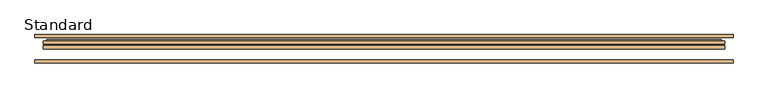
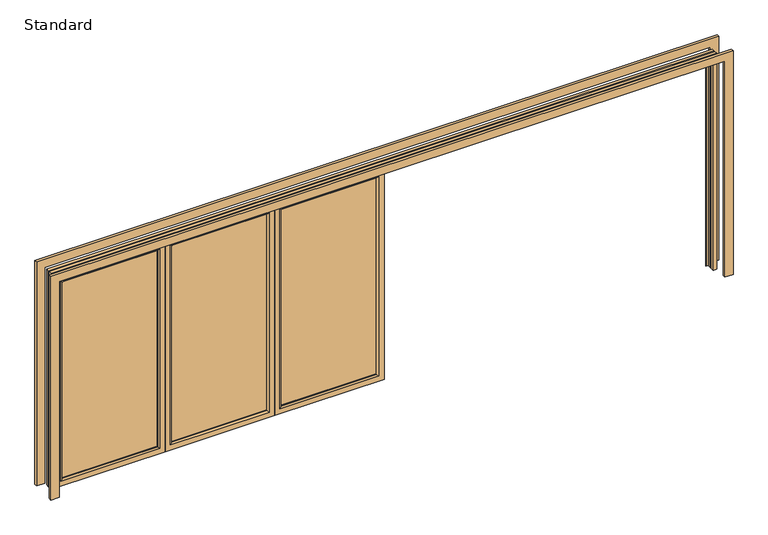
"""IFC4 building model written with IfcOpenShell, lengths in millimetres: door geometry, SMARTS_Visofold1000 : Standard."""

from ifc_helpers import new_model, si_unit, frame, origin, place, context, project, spatial, polyline, ellipse_curve, outline, extrude, faceted_brep, source, transform, mapped, element, save
from ifc_brep_helpers import plane_surface, cylinder_surface, advanced_brep


def standard_046189a8(model_context):
    return source(origin(), model_context, "Body", "SolidModel", [
        advanced_brep(
        [(-1912.8333333, 13.3, 60.5), (-1912.8333333, 17.4, 60.5), (-1912.8333333, 17.4, 1939.5), (-1912.8333333, 13.3, 1939.5), (-1973.3333333, 17.4, 0.0), (-1973.3333333, 0.0, 0.0), (-1973.3333333, 0.0, 2000.0), (-1973.3333333, 17.4, 2000.0), (-1047.1666667, 17.4, 1939.5), (-1047.1666667, 13.3, 1939.5), (-986.6666667, 0.0, 2000.0), (-986.6666667, 17.4, 2000.0), (-1047.1666667, 17.4, 60.5), (-1047.1666667, 13.3, 60.5), (-986.6666667, 0.0, 0.0), (-986.6666667, 17.4, 0.0), (-1926.1333333, 0.0, 1952.8), (-1033.8666667, 0.0, 1952.8), (-1033.8666667, 0.0, 47.2), (-1926.1333333, 0.0, 47.2), (-1955.4641853, 34.8, 17.8691481), (-1955.4641853, 17.4, 17.8691481), (-1955.4641853, 17.4, 1982.1308519), (-1955.4641853, 34.8, 1982.1308519), (-1004.5358147, 17.4, 1982.1308519), (-1004.5358147, 34.8, 1982.1308519), (-1004.5358147, 17.4, 17.8691481), (-1004.5358147, 34.8, 17.8691481), (-1928.3333333, 17.4, 45.0), (-1928.3333333, 34.8, 45.0), (-1928.3333333, 34.8, 1955.0), (-1928.3333333, 17.4, 1955.0), (-1031.6666667, 34.8, 1955.0), (-1031.6666667, 17.4, 1955.0), (-1031.6666667, 34.8, 45.0), (-1031.6666667, 17.4, 45.0)],
        [
            (0, 1),
            (1, 2),
            (2, 3),
            (3, 0),
            (4, 5),
            (5, 6),
            (6, 7),
            (7, 4),
            (2, 8),
            (8, 9),
            (9, 3),
            (6, 10),
            (10, 11),
            (11, 7),
            (8, 12),
            (12, 13),
            (13, 9),
            (10, 14),
            (14, 15),
            (15, 11),
            (12, 1),
            (0, 13),
            (5, 14),
            (16, 17),
            (17, 18),
            (18, 19),
            (19, 16),
            (4, 15),
            (19, 0, ellipse_curve(frame((-1926.1333333, 13.3, 47.2), z_axis=(-0.70710678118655, 0.0, 0.707106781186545), x_axis=(-0.707106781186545, 0.0, -0.7071067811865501)), 18.8090404, 13.3)),
            (3, 16, ellipse_curve(frame((-1926.1333333, 13.3, 1952.8), z_axis=(-0.7071067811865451, 0.0, -0.7071067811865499), x_axis=(0.70710678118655, 0.0, -0.7071067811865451)), 18.8090404, 13.3)),
            (9, 17, ellipse_curve(frame((-1033.8666667, 13.3, 1952.8), z_axis=(-0.70710678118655, 0.0, 0.707106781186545), x_axis=(-0.707106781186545, 0.0, -0.7071067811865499)), 18.8090404, 13.3)),
            (13, 18, ellipse_curve(frame((-1033.8666667, 13.3, 47.2), z_axis=(0.7071067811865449, 0.0, 0.70710678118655), x_axis=(-0.7071067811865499, 0.0, 0.707106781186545)), 18.8090404, 13.3)),
            (20, 21),
            (21, 22),
            (22, 23),
            (23, 20),
            (22, 24),
            (24, 25),
            (25, 23),
            (24, 26),
            (26, 27),
            (27, 25),
            (21, 26),
            (20, 27),
            (28, 29),
            (29, 30),
            (30, 31),
            (31, 28),
            (30, 32),
            (32, 33),
            (33, 31),
            (32, 34),
            (34, 35),
            (35, 33),
            (34, 29),
            (28, 35),
        ],
        [
            plane_surface(frame((-1912.8333333, 17.4, 60.5), z_axis=(1.0, 0.0, 0.0), x_axis=(0.0, 0.0, 1.0))),
            plane_surface(frame((-1973.3333333, 0.0, 0.0), z_axis=(-1.0, 0.0, 0.0), x_axis=(0.0, 0.0, 1.0))),
            plane_surface(frame((-1912.8333333, 17.4, 1939.5), z_axis=(0.0, 0.0, -1.0), x_axis=(1.0, 0.0, 0.0))),
            plane_surface(frame((-1973.3333333, 0.0, 2000.0), z_axis=(0.0, 0.0, 1.0), x_axis=(1.0, 0.0, 0.0))),
            plane_surface(frame((-1047.1666667, 17.4, 1939.5), z_axis=(-1.0, 0.0, 0.0), x_axis=(0.0, 0.0, -1.0))),
            plane_surface(frame((-986.6666667, 0.0, 2000.0), z_axis=(1.0, 0.0, 0.0), x_axis=(0.0, 0.0, -1.0))),
            plane_surface(frame((-1047.1666667, 17.4, 60.5), z_axis=(0.0, 0.0, 1.0), x_axis=(-1.0, 0.0, 0.0))),
            plane_surface(frame((-1033.8666667, 0.0, 47.2), z_axis=(0.0, -1.0, 0.0), x_axis=(-1.0, 0.0, 0.0))),
            plane_surface(frame((-986.6666667, 0.0, 0.0), z_axis=(0.0, 0.0, -1.0), x_axis=(-1.0, 0.0, 0.0))),
            cylinder_surface(frame((-1926.1333333, 13.3, 0.0), z_axis=(0.0, 0.0, -1.0), x_axis=(0.0, 1.0, 0.0)), 13.3),
            cylinder_surface(frame((-1973.3333333, 13.3, 1952.8), z_axis=(-1.0, 0.0, 0.0), x_axis=(0.0, 1.0, 0.0)), 13.3),
            cylinder_surface(frame((-1033.8666667, 13.3, 2000.0), z_axis=(0.0, 0.0, 1.0), x_axis=(0.0, 1.0, 0.0)), 13.3),
            cylinder_surface(frame((-986.6666667, 13.3, 47.2), z_axis=(1.0, 0.0, 0.0), x_axis=(0.0, 1.0, 0.0)), 13.3),
            plane_surface(frame((-1955.4641853, 17.4, 17.8691481), z_axis=(-1.0, 0.0, 0.0), x_axis=(0.0, 0.0, 1.0))),
            plane_surface(frame((-1955.4641853, 17.4, 1982.1308519), z_axis=(0.0, 0.0, 1.0), x_axis=(1.0, 0.0, 0.0))),
            plane_surface(frame((-1004.5358147, 17.4, 1982.1308519), z_axis=(1.0, 0.0, 0.0), x_axis=(0.0, 0.0, -1.0))),
            plane_surface(frame((-986.6666667, 17.4, 0.0), z_axis=(0.0, 1.0, 0.0), x_axis=(-1.0, 0.0, 0.0))),
            plane_surface(frame((-1004.5358147, 17.4, 17.8691481), z_axis=(0.0, 0.0, -1.0), x_axis=(-1.0, 0.0, 0.0))),
            plane_surface(frame((-1928.3333333, 34.8, 45.0), z_axis=(1.0, 0.0, 0.0), x_axis=(0.0, 0.0, 1.0))),
            plane_surface(frame((-1928.3333333, 34.8, 1955.0), z_axis=(0.0, 0.0, -1.0), x_axis=(1.0, 0.0, 0.0))),
            plane_surface(frame((-1031.6666667, 34.8, 1955.0), z_axis=(-1.0, 0.0, 0.0), x_axis=(0.0, 0.0, -1.0))),
            plane_surface(frame((-1031.6666667, 34.8, 45.0), z_axis=(0.0, 0.0, 1.0), x_axis=(-1.0, 0.0, 0.0))),
            plane_surface(frame((-1031.6666667, 17.4, 45.0), z_axis=(0.0, 1.0, 0.0), x_axis=(-1.0, 0.0, 0.0))),
            plane_surface(frame((-1004.5358147, 34.8, 17.8691481), z_axis=(0.0, 1.0, 0.0), x_axis=(-1.0, 0.0, 0.0))),
        ],
        [
            (0, [[1, 2, 3, 4]]),
            (1, [[5, 6, 7, 8]]),
            (2, [[-3, 9, 10, 11]]),
            (3, [[-7, 12, 13, 14]]),
            (4, [[-10, 15, 16, 17]]),
            (5, [[-13, 18, 19, 20]]),
            (6, [[-16, 21, -1, 22]]),
            (7, [[23, -18, -12, -6], [24, 25, 26, 27]]),
            (8, [[-19, -23, -5, 28]]),
            (9, [[29, -4, 30, -27]]),
            (10, [[-30, -11, 31, -24]]),
            (11, [[-31, -17, 32, -25]]),
            (12, [[-32, -22, -29, -26]]),
            (13, [[33, 34, 35, 36]]),
            (14, [[-35, 37, 38, 39]]),
            (15, [[-38, 40, 41, 42]]),
            (16, [[-14, -20, -28, -8], [43, -40, -37, -34]]),
            (17, [[-41, -43, -33, 44]]),
            (18, [[45, 46, 47, 48]]),
            (19, [[-47, 49, 50, 51]]),
            (20, [[-50, 52, 53, 54]]),
            (21, [[-53, 55, -45, 56]]),
            (22, [[-51, -54, -56, -48], [-21, -15, -9, -2]]),
            (23, [[-39, -42, -44, -36], [-55, -52, -49, -46]]),
        ],
    ),
        extrude(outline(polyline([(-1912.8333333, 50.1484783), (-1047.1666667, 50.1484783), (-1047.1666667, 21.4), (-1912.8333333, 21.4), (-1912.8333333, 50.1484783)])), frame((0.0, 0.0, 60.5), z_axis=(0.0, 0.0, 1.0), x_axis=(1.0, 0.0, 0.0)), (0.0, 0.0, 1.0), 1879.0),
        extrude(outline(polyline([(45.0, -45.0), (1955.0, -45.0), (1955.0, -941.6666667), (45.0, -941.6666667), (45.0, -45.0)]), holes=[polyline([(1939.5, -60.5), (60.5, -60.5), (60.5, -926.1666667), (1939.5, -926.1666667), (1939.5, -60.5)])]), frame((0.0, 17.4, 0.0), z_axis=(0.0, 1.0, 0.0), x_axis=(0.0, 0.0, 1.0)), (0.0, 0.0, 1.0), 35.0),
        faceted_brep([(0.0, 74.4, 0.0), (0.0, 74.4, 2000.0), (0.0, 52.4, 2000.0), (0.0, 52.4, 0.0), (-60.5, 52.4, 60.5), (-60.5, 52.4, 1939.5), (-60.5, 74.4, 1939.5), (-60.5, 74.4, 60.5), (-986.6666667, 74.4, 2000.0), (-986.6666667, 52.4, 2000.0), (-926.1666667, 52.4, 1939.5), (-926.1666667, 74.4, 1939.5), (-986.6666667, 74.4, 0.0), (-986.6666667, 52.4, 0.0), (-926.1666667, 52.4, 60.5), (-926.1666667, 74.4, 60.5), (-17.8691481, 34.8, 17.8691481), (-17.8691481, 34.8, 1982.1308519), (-968.7975186, 34.8, 1982.1308519), (-968.7975186, 34.8, 17.8691481), (-45.0, 34.8, 1955.0), (-45.0, 34.8, 45.0), (-941.6666667, 34.8, 45.0), (-941.6666667, 34.8, 1955.0), (-17.8691481, 52.4, 17.8691481), (-17.8691481, 52.4, 1982.1308519), (-45.0, 52.4, 1955.0), (-45.0, 52.4, 45.0), (-968.7975186, 52.4, 1982.1308519), (-941.6666667, 52.4, 1955.0), (-968.7975186, 52.4, 17.8691481), (-941.6666667, 52.4, 45.0)], [[[0, 1, 2, 3]], [[4, 5, 6, 7]], [[1, 8, 9, 2]], [[5, 10, 11, 6]], [[8, 12, 13, 9]], [[10, 14, 15, 11]], [[12, 0, 3, 13]], [[1, 0, 12, 8], [7, 6, 11, 15]], [[14, 4, 7, 15]], [[16, 17, 18, 19], [20, 21, 22, 23]], [[24, 25, 17, 16]], [[21, 20, 26, 27]], [[25, 28, 18, 17]], [[20, 23, 29, 26]], [[28, 30, 19, 18]], [[23, 22, 31, 29]], [[30, 24, 16, 19]], [[3, 2, 9, 13], [25, 24, 30, 28]], [[27, 26, 29, 31], [5, 4, 14, 10]], [[22, 21, 27, 31]]]),
        advanced_brep(
        [(-60.5, 13.3, 60.5), (-60.5, 13.3, 1939.5), (-60.5, 17.4, 1939.5), (-60.5, 17.4, 60.5), (0.0, 17.4, 0.0), (0.0, 17.4, 2000.0), (0.0, 0.0, 2000.0), (0.0, 0.0, 0.0), (-926.1666667, 13.3, 1939.5), (-926.1666667, 17.4, 1939.5), (-986.6666667, 17.4, 2000.0), (-986.6666667, 0.0, 2000.0), (-926.1666667, 13.3, 60.5), (-926.1666667, 17.4, 60.5), (-986.6666667, 17.4, 0.0), (-986.6666667, 0.0, 0.0), (-47.2, 0.0, 1952.8), (-47.2, 0.0, 47.2), (-939.4666667, 0.0, 47.2), (-939.4666667, 0.0, 1952.8), (-17.8691481, 34.8, 17.8691481), (-17.8691481, 34.8, 1982.1308519), (-17.8691481, 17.4, 1982.1308519), (-17.8691481, 17.4, 17.8691481), (-968.7975186, 34.8, 1982.1308519), (-968.7975186, 17.4, 1982.1308519), (-968.7975186, 34.8, 17.8691481), (-968.7975186, 17.4, 17.8691481), (-45.0, 17.4, 45.0), (-45.0, 17.4, 1955.0), (-45.0, 34.8, 1955.0), (-45.0, 34.8, 45.0), (-941.6666667, 17.4, 1955.0), (-941.6666667, 34.8, 1955.0), (-941.6666667, 17.4, 45.0), (-941.6666667, 34.8, 45.0)],
        [
            (0, 1),
            (1, 2),
            (2, 3),
            (3, 0),
            (4, 5),
            (5, 6),
            (6, 7),
            (7, 4),
            (1, 8),
            (8, 9),
            (9, 2),
            (5, 10),
            (10, 11),
            (11, 6),
            (8, 12),
            (12, 13),
            (13, 9),
            (10, 14),
            (14, 15),
            (15, 11),
            (12, 0),
            (3, 13),
            (15, 7),
            (16, 17),
            (17, 18),
            (18, 19),
            (19, 16),
            (14, 4),
            (16, 1, ellipse_curve(frame((-47.2, 13.3, 1952.8), z_axis=(0.7071067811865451, 0.0, -0.7071067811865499), x_axis=(-0.70710678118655, 0.0, -0.7071067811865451)), 18.8090404, 13.3)),
            (0, 17, ellipse_curve(frame((-47.2, 13.3, 47.2), z_axis=(0.70710678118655, 0.0, 0.707106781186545), x_axis=(0.707106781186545, 0.0, -0.7071067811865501)), 18.8090404, 13.3)),
            (19, 8, ellipse_curve(frame((-939.4666667, 13.3, 1952.8), z_axis=(0.70710678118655, 0.0, 0.707106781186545), x_axis=(0.707106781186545, 0.0, -0.7071067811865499)), 18.8090404, 13.3)),
            (18, 12, ellipse_curve(frame((-939.4666667, 13.3, 47.2), z_axis=(-0.7071067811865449, 0.0, 0.70710678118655), x_axis=(0.7071067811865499, 0.0, 0.707106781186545)), 18.8090404, 13.3)),
            (20, 21),
            (21, 22),
            (22, 23),
            (23, 20),
            (21, 24),
            (24, 25),
            (25, 22),
            (24, 26),
            (26, 27),
            (27, 25),
            (27, 23),
            (26, 20),
            (28, 29),
            (29, 30),
            (30, 31),
            (31, 28),
            (29, 32),
            (32, 33),
            (33, 30),
            (32, 34),
            (34, 35),
            (35, 33),
            (34, 28),
            (31, 35),
        ],
        [
            plane_surface(frame((-60.5, 17.4, 60.5), z_axis=(-1.0, 0.0, 0.0), x_axis=(0.0, 0.0, 1.0))),
            plane_surface(frame((0.0, 0.0, 0.0), z_axis=(1.0, 0.0, 0.0), x_axis=(0.0, 0.0, 1.0))),
            plane_surface(frame((-60.5, 17.4, 1939.5), z_axis=(0.0, 0.0, -1.0), x_axis=(-1.0, 0.0, 0.0))),
            plane_surface(frame((0.0, 0.0, 2000.0), z_axis=(0.0, 0.0, 1.0), x_axis=(-1.0, 0.0, 0.0))),
            plane_surface(frame((-926.1666667, 17.4, 1939.5), z_axis=(1.0, 0.0, 0.0), x_axis=(0.0, 0.0, -1.0))),
            plane_surface(frame((-986.6666667, 0.0, 2000.0), z_axis=(-1.0, 0.0, 0.0), x_axis=(0.0, 0.0, -1.0))),
            plane_surface(frame((-926.1666667, 17.4, 60.5), z_axis=(0.0, 0.0, 1.0), x_axis=(1.0, 0.0, 0.0))),
            plane_surface(frame((-939.4666667, 0.0, 47.2), z_axis=(0.0, -1.0, 0.0), x_axis=(1.0, 0.0, 0.0))),
            plane_surface(frame((-986.6666667, 0.0, 0.0), z_axis=(0.0, 0.0, -1.0), x_axis=(1.0, 0.0, 0.0))),
            cylinder_surface(frame((-47.2, 13.3, 0.0), z_axis=(0.0, 0.0, -1.0), x_axis=(0.0, 1.0, 0.0)), 13.3),
            cylinder_surface(frame((0.0, 13.3, 1952.8), z_axis=(1.0, 0.0, 0.0), x_axis=(0.0, 1.0, 0.0)), 13.3),
            cylinder_surface(frame((-939.4666667, 13.3, 2000.0), z_axis=(0.0, 0.0, 1.0), x_axis=(0.0, 1.0, 0.0)), 13.3),
            cylinder_surface(frame((-986.6666667, 13.3, 47.2), z_axis=(-1.0, 0.0, 0.0), x_axis=(0.0, 1.0, 0.0)), 13.3),
            plane_surface(frame((-17.8691481, 17.4, 17.8691481), z_axis=(1.0, 0.0, 0.0), x_axis=(0.0, 0.0, 1.0))),
            plane_surface(frame((-17.8691481, 17.4, 1982.1308519), z_axis=(0.0, 0.0, 1.0), x_axis=(-1.0, 0.0, 0.0))),
            plane_surface(frame((-968.7975186, 17.4, 1982.1308519), z_axis=(-1.0, 0.0, 0.0), x_axis=(0.0, 0.0, -1.0))),
            plane_surface(frame((-986.6666667, 17.4, 0.0), z_axis=(0.0, 1.0, 0.0), x_axis=(1.0, 0.0, 0.0))),
            plane_surface(frame((-968.7975186, 17.4, 17.8691481), z_axis=(0.0, 0.0, -1.0), x_axis=(1.0, 0.0, 0.0))),
            plane_surface(frame((-45.0, 34.8, 45.0), z_axis=(-1.0, 0.0, 0.0), x_axis=(0.0, 0.0, 1.0))),
            plane_surface(frame((-45.0, 34.8, 1955.0), z_axis=(0.0, 0.0, -1.0), x_axis=(-1.0, 0.0, 0.0))),
            plane_surface(frame((-941.6666667, 34.8, 1955.0), z_axis=(1.0, 0.0, 0.0), x_axis=(0.0, 0.0, -1.0))),
            plane_surface(frame((-941.6666667, 34.8, 45.0), z_axis=(0.0, 0.0, 1.0), x_axis=(1.0, 0.0, 0.0))),
            plane_surface(frame((-941.6666667, 17.4, 45.0), z_axis=(0.0, 1.0, 0.0), x_axis=(1.0, 0.0, 0.0))),
            plane_surface(frame((-968.7975186, 34.8, 17.8691481), z_axis=(0.0, 1.0, 0.0), x_axis=(1.0, 0.0, 0.0))),
        ],
        [
            (0, [[1, 2, 3, 4]]),
            (1, [[5, 6, 7, 8]]),
            (2, [[9, 10, 11, -2]]),
            (3, [[12, 13, 14, -6]]),
            (4, [[15, 16, 17, -10]]),
            (5, [[18, 19, 20, -13]]),
            (6, [[21, -4, 22, -16]]),
            (7, [[-7, -14, -20, 23], [24, 25, 26, 27]]),
            (8, [[28, -8, -23, -19]]),
            (9, [[-24, 29, -1, 30]]),
            (10, [[-27, 31, -9, -29]]),
            (11, [[-26, 32, -15, -31]]),
            (12, [[-25, -30, -21, -32]]),
            (13, [[33, 34, 35, 36]]),
            (14, [[37, 38, 39, -34]]),
            (15, [[40, 41, 42, -38]]),
            (16, [[-5, -28, -18, -12], [-35, -39, -42, 43]]),
            (17, [[44, -36, -43, -41]]),
            (18, [[45, 46, 47, 48]]),
            (19, [[49, 50, 51, -46]]),
            (20, [[52, 53, 54, -50]]),
            (21, [[55, -48, 56, -53]]),
            (22, [[-45, -55, -52, -49], [-3, -11, -17, -22]]),
            (23, [[-33, -44, -40, -37], [-47, -51, -54, -56]]),
        ],
    ),
        extrude(outline(polyline([(-60.5, 50.1484783), (-60.5, 21.4), (-926.1666667, 21.4), (-926.1666667, 50.1484783), (-60.5, 50.1484783)])), frame((0.0, 0.0, 60.5), z_axis=(0.0, 0.0, 1.0), x_axis=(1.0, 0.0, 0.0)), (0.0, 0.0, 1.0), 1879.0),
        extrude(outline(polyline([(45.0, -2018.3333333), (1955.0, -2018.3333333), (1955.0, -2915.0), (45.0, -2915.0), (45.0, -2018.3333333)]), holes=[polyline([(1939.5, -2033.8333333), (60.5, -2033.8333333), (60.5, -2899.5), (1939.5, -2899.5), (1939.5, -2033.8333333)])]), frame((0.0, 17.4, 0.0), z_axis=(0.0, 1.0, 0.0), x_axis=(0.0, 0.0, 1.0)), (0.0, 0.0, 1.0), 35.0),
        faceted_brep([(-1973.3333333, 74.4, 0.0), (-1973.3333333, 74.4, 2000.0), (-1973.3333333, 52.4, 2000.0), (-1973.3333333, 52.4, 0.0), (-2033.8333333, 52.4, 60.5), (-2033.8333333, 52.4, 1939.5), (-2033.8333333, 74.4, 1939.5), (-2033.8333333, 74.4, 60.5), (-2960.0, 74.4, 0.0), (-2960.0, 52.4, 0.0), (-2960.0, 74.4, 2000.0), (-2960.0, 52.4, 2000.0), (-2899.5, 52.4, 1939.5), (-2899.5, 74.4, 1939.5), (-2899.5, 52.4, 60.5), (-2899.5, 74.4, 60.5), (-1991.2024814, 34.8, 17.8691481), (-1991.2024814, 34.8, 1982.1308519), (-2942.1308519, 34.8, 1982.1308519), (-2942.1308519, 34.8, 17.8691481), (-2018.3333333, 34.8, 1955.0), (-2018.3333333, 34.8, 45.0), (-2915.0, 34.8, 45.0), (-2915.0, 34.8, 1955.0), (-1991.2024814, 52.4, 17.8691481), (-1991.2024814, 52.4, 1982.1308519), (-2018.3333333, 52.4, 1955.0), (-2018.3333333, 52.4, 45.0), (-2942.1308519, 52.4, 1982.1308519), (-2915.0, 52.4, 1955.0), (-2942.1308519, 52.4, 17.8691481), (-2915.0, 52.4, 45.0)], [[[0, 1, 2, 3]], [[4, 5, 6, 7]], [[8, 0, 3, 9]], [[1, 10, 11, 2]], [[5, 12, 13, 6]], [[10, 8, 9, 11]], [[12, 14, 15, 13]], [[1, 0, 8, 10], [7, 6, 13, 15]], [[14, 4, 7, 15]], [[16, 17, 18, 19], [20, 21, 22, 23]], [[24, 25, 17, 16]], [[21, 20, 26, 27]], [[25, 28, 18, 17]], [[20, 23, 29, 26]], [[28, 30, 19, 18]], [[23, 22, 31, 29]], [[30, 24, 16, 19]], [[3, 2, 11, 9], [25, 24, 30, 28]], [[27, 26, 29, 31], [5, 4, 14, 12]], [[22, 21, 27, 31]]]),
        advanced_brep(
        [(-2033.8333333, 13.3, 60.5), (-2033.8333333, 13.3, 1939.5), (-2033.8333333, 17.4, 1939.5), (-2033.8333333, 17.4, 60.5), (-1973.3333333, 17.4, 0.0), (-1973.3333333, 17.4, 2000.0), (-1973.3333333, 0.0, 2000.0), (-1973.3333333, 0.0, 0.0), (-2899.5, 13.3, 1939.5), (-2899.5, 17.4, 1939.5), (-2960.0, 17.4, 2000.0), (-2960.0, 0.0, 2000.0), (-2899.5, 13.3, 60.5), (-2899.5, 17.4, 60.5), (-2960.0, 17.4, 0.0), (-2960.0, 0.0, 0.0), (-2020.5333333, 0.0, 1952.8), (-2020.5333333, 0.0, 47.2), (-2912.8, 0.0, 47.2), (-2912.8, 0.0, 1952.8), (-1991.2024814, 34.8, 17.8691481), (-1991.2024814, 34.8, 1982.1308519), (-1991.2024814, 17.4, 1982.1308519), (-1991.2024814, 17.4, 17.8691481), (-2942.1308519, 34.8, 1982.1308519), (-2942.1308519, 17.4, 1982.1308519), (-2942.1308519, 34.8, 17.8691481), (-2942.1308519, 17.4, 17.8691481), (-2018.3333333, 17.4, 45.0), (-2018.3333333, 17.4, 1955.0), (-2018.3333333, 34.8, 1955.0), (-2018.3333333, 34.8, 45.0), (-2915.0, 17.4, 1955.0), (-2915.0, 34.8, 1955.0), (-2915.0, 17.4, 45.0), (-2915.0, 34.8, 45.0)],
        [
            (0, 1),
            (1, 2),
            (2, 3),
            (3, 0),
            (4, 5),
            (5, 6),
            (6, 7),
            (7, 4),
            (1, 8),
            (8, 9),
            (9, 2),
            (5, 10),
            (10, 11),
            (11, 6),
            (8, 12),
            (12, 13),
            (13, 9),
            (10, 14),
            (14, 15),
            (15, 11),
            (12, 0),
            (3, 13),
            (15, 7),
            (16, 17),
            (17, 18),
            (18, 19),
            (19, 16),
            (14, 4),
            (16, 1, ellipse_curve(frame((-2020.5333333, 13.3, 1952.8), z_axis=(0.7071067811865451, 0.0, -0.7071067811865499), x_axis=(-0.70710678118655, 0.0, -0.7071067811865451)), 18.8090404, 13.3)),
            (0, 17, ellipse_curve(frame((-2020.5333333, 13.3, 47.2), z_axis=(0.70710678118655, 0.0, 0.707106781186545), x_axis=(0.707106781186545, 0.0, -0.7071067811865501)), 18.8090404, 13.3)),
            (19, 8, ellipse_curve(frame((-2912.8, 13.3, 1952.8), z_axis=(0.70710678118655, 0.0, 0.707106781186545), x_axis=(0.707106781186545, 0.0, -0.7071067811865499)), 18.8090404, 13.3)),
            (18, 12, ellipse_curve(frame((-2912.8, 13.3, 47.2), z_axis=(-0.7071067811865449, 0.0, 0.70710678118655), x_axis=(0.7071067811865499, 0.0, 0.707106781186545)), 18.8090404, 13.3)),
            (20, 21),
            (21, 22),
            (22, 23),
            (23, 20),
            (21, 24),
            (24, 25),
            (25, 22),
            (24, 26),
            (26, 27),
            (27, 25),
            (27, 23),
            (26, 20),
            (28, 29),
            (29, 30),
            (30, 31),
            (31, 28),
            (29, 32),
            (32, 33),
            (33, 30),
            (32, 34),
            (34, 35),
            (35, 33),
            (34, 28),
            (31, 35),
        ],
        [
            plane_surface(frame((-2033.8333333, 17.4, 60.5), z_axis=(-1.0, 0.0, 0.0), x_axis=(0.0, 0.0, 1.0))),
            plane_surface(frame((-1973.3333333, 0.0, 0.0), z_axis=(1.0, 0.0, 0.0), x_axis=(0.0, 0.0, 1.0))),
            plane_surface(frame((-2033.8333333, 17.4, 1939.5), z_axis=(0.0, 0.0, -1.0), x_axis=(-1.0, 0.0, 0.0))),
            plane_surface(frame((-1973.3333333, 0.0, 2000.0), z_axis=(0.0, 0.0, 1.0), x_axis=(-1.0, 0.0, 0.0))),
            plane_surface(frame((-2899.5, 17.4, 1939.5), z_axis=(1.0, 0.0, 0.0), x_axis=(0.0, 0.0, -1.0))),
            plane_surface(frame((-2960.0, 0.0, 2000.0), z_axis=(-1.0, 0.0, 0.0), x_axis=(0.0, 0.0, -1.0))),
            plane_surface(frame((-2899.5, 17.4, 60.5), z_axis=(0.0, 0.0, 1.0), x_axis=(1.0, 0.0, 0.0))),
            plane_surface(frame((-2912.8, 0.0, 47.2), z_axis=(0.0, -1.0, 0.0), x_axis=(1.0, 0.0, 0.0))),
            plane_surface(frame((-2960.0, 0.0, 0.0), z_axis=(0.0, 0.0, -1.0), x_axis=(1.0, 0.0, 0.0))),
            cylinder_surface(frame((-2020.5333333, 13.3, 0.0), z_axis=(0.0, 0.0, -1.0), x_axis=(0.0, 1.0, 0.0)), 13.3),
            cylinder_surface(frame((-1973.3333333, 13.3, 1952.8), z_axis=(1.0, 0.0, 0.0), x_axis=(0.0, 1.0, 0.0)), 13.3),
            cylinder_surface(frame((-2912.8, 13.3, 2000.0), z_axis=(0.0, 0.0, 1.0), x_axis=(0.0, 1.0, 0.0)), 13.3),
            cylinder_surface(frame((-2960.0, 13.3, 47.2), z_axis=(-1.0, 0.0, 0.0), x_axis=(0.0, 1.0, 0.0)), 13.3),
            plane_surface(frame((-1991.2024814, 17.4, 17.8691481), z_axis=(1.0, 0.0, 0.0), x_axis=(0.0, 0.0, 1.0))),
            plane_surface(frame((-1991.2024814, 17.4, 1982.1308519), z_axis=(0.0, 0.0, 1.0), x_axis=(-1.0, 0.0, 0.0))),
            plane_surface(frame((-2942.1308519, 17.4, 1982.1308519), z_axis=(-1.0, 0.0, 0.0), x_axis=(0.0, 0.0, -1.0))),
            plane_surface(frame((-2960.0, 17.4, 0.0), z_axis=(0.0, 1.0, 0.0), x_axis=(1.0, 0.0, 0.0))),
            plane_surface(frame((-2942.1308519, 17.4, 17.8691481), z_axis=(0.0, 0.0, -1.0), x_axis=(1.0, 0.0, 0.0))),
            plane_surface(frame((-2018.3333333, 34.8, 45.0), z_axis=(-1.0, 0.0, 0.0), x_axis=(0.0, 0.0, 1.0))),
            plane_surface(frame((-2018.3333333, 34.8, 1955.0), z_axis=(0.0, 0.0, -1.0), x_axis=(-1.0, 0.0, 0.0))),
            plane_surface(frame((-2915.0, 34.8, 1955.0), z_axis=(1.0, 0.0, 0.0), x_axis=(0.0, 0.0, -1.0))),
            plane_surface(frame((-2915.0, 34.8, 45.0), z_axis=(0.0, 0.0, 1.0), x_axis=(1.0, 0.0, 0.0))),
            plane_surface(frame((-2915.0, 17.4, 45.0), z_axis=(0.0, 1.0, 0.0), x_axis=(1.0, 0.0, 0.0))),
            plane_surface(frame((-2942.1308519, 34.8, 17.8691481), z_axis=(0.0, 1.0, 0.0), x_axis=(1.0, 0.0, 0.0))),
        ],
        [
            (0, [[1, 2, 3, 4]]),
            (1, [[5, 6, 7, 8]]),
            (2, [[9, 10, 11, -2]]),
            (3, [[12, 13, 14, -6]]),
            (4, [[15, 16, 17, -10]]),
            (5, [[18, 19, 20, -13]]),
            (6, [[21, -4, 22, -16]]),
            (7, [[-7, -14, -20, 23], [24, 25, 26, 27]]),
            (8, [[28, -8, -23, -19]]),
            (9, [[-24, 29, -1, 30]]),
            (10, [[-27, 31, -9, -29]]),
            (11, [[-26, 32, -15, -31]]),
            (12, [[-25, -30, -21, -32]]),
            (13, [[33, 34, 35, 36]]),
            (14, [[37, 38, 39, -34]]),
            (15, [[40, 41, 42, -38]]),
            (16, [[-5, -28, -18, -12], [-35, -39, -42, 43]]),
            (17, [[44, -36, -43, -41]]),
            (18, [[45, 46, 47, 48]]),
            (19, [[49, 50, 51, -46]]),
            (20, [[52, 53, 54, -50]]),
            (21, [[55, -48, 56, -53]]),
            (22, [[-45, -55, -52, -49], [-3, -11, -17, -22]]),
            (23, [[-33, -44, -40, -37], [-47, -51, -54, -56]]),
        ],
    ),
        extrude(outline(polyline([(-2033.8333333, 50.1484783), (-2033.8333333, 21.4), (-2899.5, 21.4), (-2899.5, 50.1484783), (-2033.8333333, 50.1484783)])), frame((0.0, 0.0, 60.5), z_axis=(0.0, 0.0, 1.0), x_axis=(1.0, 0.0, 0.0)), (0.0, 0.0, 1.0), 1879.0),
        extrude(outline(polyline([(2058.6516063, -3000.0), (2058.6516063, 3000.0), (0.0, 3000.0), (0.0, 3075.0), (2133.6516063, 3075.0), (2133.6516063, -3075.0), (0.0, -3075.0), (0.0, -3000.0), (2058.6516063, -3000.0)])), frame((0.0, 100.0, 0.0), z_axis=(0.0, 1.0, 0.0), x_axis=(0.0, 0.0, 1.0)), (0.0, 0.0, 1.0), 25.0),
        extrude(outline(polyline([(2133.6516063, -3075.0), (0.0, -3075.0), (0.0, -3000.0), (2058.6516063, -3000.0), (2058.6516063, 3000.0), (0.0, 3000.0), (0.0, 3075.0), (2133.6516063, 3075.0), (2133.6516063, -3075.0)])), frame((0.0, -125.0, 0.0), z_axis=(0.0, 1.0, 0.0), x_axis=(0.0, 0.0, 1.0)), (0.0, 0.0, 1.0), 25.0),
        extrude(outline(polyline([(0.0, 2968.8), (0.0, 3000.0), (2058.6516063, 3000.0), (2058.6516063, -3000.0), (0.0, -3000.0), (0.0, -2968.8), (2027.4516063, -2968.8), (2027.4516063, 2968.8), (0.0, 2968.8)])), frame((0.0, 0.0, 0.0), z_axis=(0.0, 1.0, 0.0), x_axis=(0.0, 0.0, 1.0)), (0.0, 0.0, 1.0), 29.65),
        faceted_brep([(3000.0, 44.85, 0.0), (2968.8, 44.85, 0.0), (2968.8, 77.4, 0.0), (2948.3, 77.4, 0.0), (2948.3, 81.9, 0.0), (2970.6, 81.9, 0.0), (2970.6, 70.0, 0.0), (3000.0, 70.0, 0.0), (3000.0, 44.85, 2058.6516063), (-3000.0, 44.85, 2058.6516063), (-3000.0, 44.85, 0.0), (-2968.8, 44.85, 0.0), (-2968.8, 44.85, 2027.4516063), (2968.8, 44.85, 2027.4516063), (2968.8, 77.4, 2027.4516063), (-2968.8, 77.4, 2027.4516063), (-2968.8, 77.4, 0.0), (-2948.3, 77.4, 0.0), (-2948.3, 77.4, 2006.9516063), (2948.3, 77.4, 2006.9516063), (2948.3, 81.9, 2006.9516063), (-2948.3, 81.9, 2006.9516063), (-2948.3, 81.9, 0.0), (-2970.6, 81.9, 0.0), (-2970.6, 81.9, 2029.2516063), (2970.6, 81.9, 2029.2516063), (2970.6, 70.0, 2029.2516063), (-2970.6, 70.0, 2029.2516063), (-2970.6, 70.0, 0.0), (-3000.0, 70.0, 0.0), (-3000.0, 70.0, 2058.6516063), (3000.0, 70.0, 2058.6516063)], [[[0, 1, 2, 3, 4, 5, 6, 7]], [[1, 0, 8, 9, 10, 11, 12, 13]], [[2, 1, 13, 14]], [[3, 2, 14, 15, 16, 17, 18, 19]], [[4, 3, 19, 20]], [[5, 4, 20, 21, 22, 23, 24, 25]], [[6, 5, 25, 26]], [[7, 6, 26, 27, 28, 29, 30, 31]], [[0, 7, 31, 8]], [[10, 29, 28, 23, 22, 17, 16, 11]], [[9, 30, 29, 10]], [[27, 24, 23, 28]], [[21, 18, 17, 22]], [[15, 12, 11, 16]], [[8, 31, 30, 9]], [[14, 13, 12, 15]], [[26, 25, 24, 27]], [[20, 19, 18, 21]]]),
    ])


if __name__ == "__main__":
    model = new_model("IFC4")
    model_context = context("Model", 3, world=origin())
    ifc_project = project(units=[si_unit("LENGTHUNIT", "METRE", prefix="MILLI")], contexts=[model_context])
    site = spatial("IfcSite", under=ifc_project)
    building = spatial("IfcBuilding", under=site)
    placement = place(None, origin())
    standard_shape = standard_046189a8(model_context)
    element("IfcDoor", 1, ObjectType="SMARTS_Visofold1000 : Standard", at=placement, inside=building, context=model_context, shape_type="MappedRepresentation", body=[
        mapped(standard_shape, transform((0.0, 0.0, 0.0), x_axis=(1.0, 0.0, 0.0), y_axis=(0.0, 1.0, 0.0), z_axis=(0.0, 0.0, 1.0))),
    ])
    save(model, "model.ifc")
